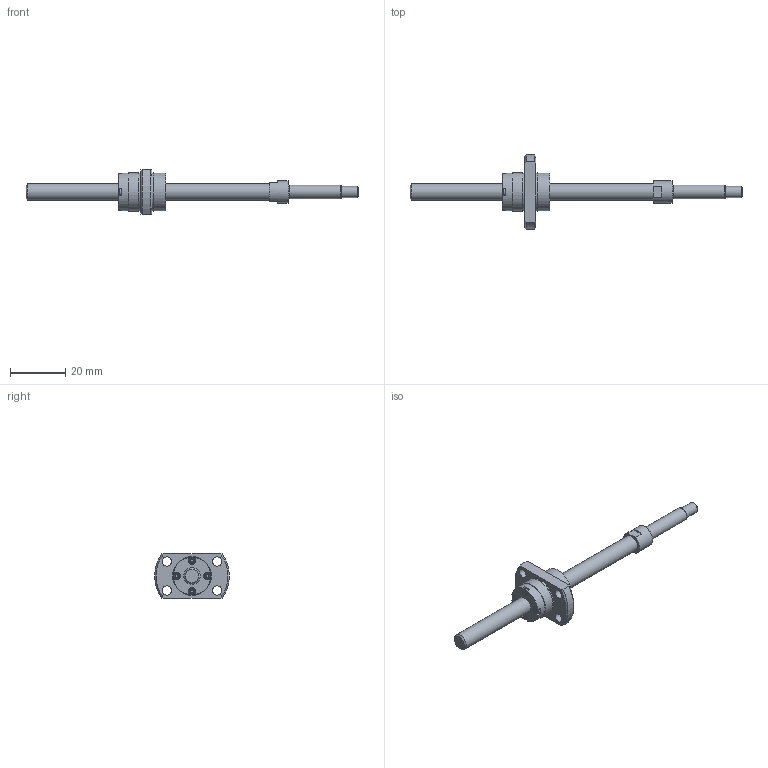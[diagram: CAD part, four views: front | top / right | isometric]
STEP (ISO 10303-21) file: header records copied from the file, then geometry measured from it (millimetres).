
FILE_DESCRIPTION(/* description */ ('STEP AP214'),/* implementation_level */ '2;1');
FILE_NAME(/* name */ 'SG0606-084R120C5A0X(33.5)',/* time_stamp */ '2026-07-20T20:19:02+02:00',/* author */ ('License CC BY-ND 4.0'),/* organization */ ('CADENAS'),/* preprocessor_version */ 'ST-DEVELOPER v20',/* originating_system */ 'PARTsolutions',/* authorisation */ ' ');
FILE_SCHEMA (('AUTOMOTIVE_DESIGN {1 0 10303 214 3 1 1}'));
Length unit declared in the file: millimetre
Products named in the file (3): SG0606-084R120C5A0X(33.5); SG0606-84R120C5A_shaft; SG0606 C5_nut
Assembly tree (2 placements, depth 2):
  SG0606-084R120C5A0X(33.5)
    SG0606-84R120C5A_shaft
    SG0606 C5_nut
Bounding box: 120 x 27 x 16 mm (x, y, z)
Volume: 6176.8 mm3; surface area: 4390.4 mm2
Topology: 2 solids, 2 shells, 99 faces, 228 edges, 149 vertices
Faces by surface type: plane 62, cylinder 24, cone 12, torus 1
Full cylindrical faces by diameter (mm): 2.25 x4, 3.4 x4, 4 x1, 5 x1, 6 x2, 8 x1, 13.6 x3, 14 x2
Entity records: 2751 total; most frequent: CARTESIAN_POINT 472, DIRECTION 466, ORIENTED_EDGE 398, EDGE_CURVE 199, AXIS2_PLACEMENT_3D 173, EDGE_LOOP 152, FACE_BOUND 152, VERTEX_POINT 147
